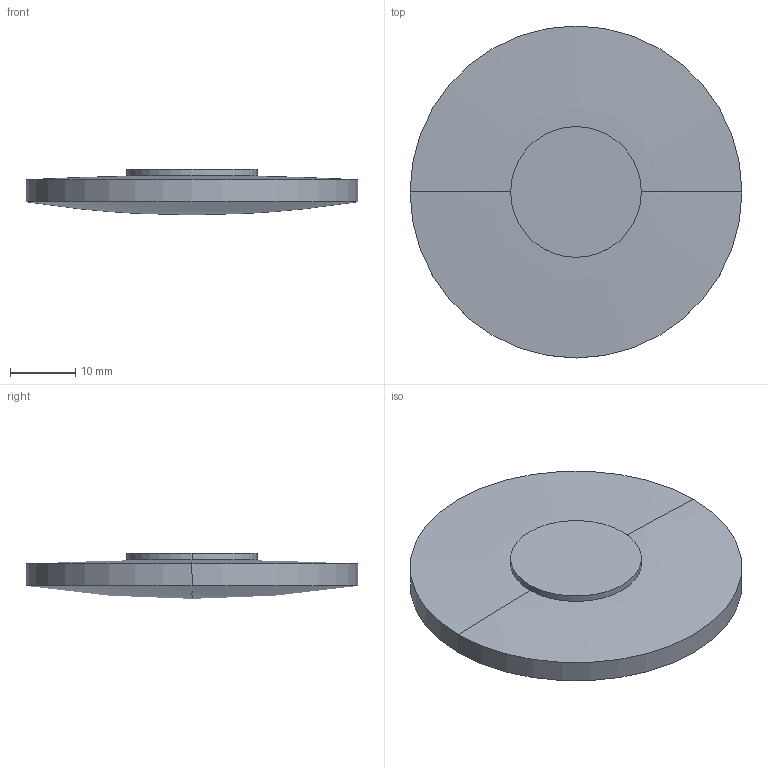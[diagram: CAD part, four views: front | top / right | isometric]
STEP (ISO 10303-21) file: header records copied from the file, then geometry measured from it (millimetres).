
FILE_DESCRIPTION(('STEP AP214'),'1');
FILE_NAME('LLR-51300.STEP','2020-03-09T17:42:04',(' '),(' '),'Spatial InterOp 3D',' ',' ');
FILE_SCHEMA(('AUTOMOTIVE_DESIGN { 1 0 10303 214 1 1 1 1 }'));
Length unit declared in the file: millimetre
Products named in the file (1): 1
Bounding box: 50.8 x 50.8 x 7 mm (x, y, z)
Volume: 9845.3 mm3; surface area: 5301.2 mm2
Topology: 2 solids, 2 shells, 10 faces, 20 edges, 10 vertices
Faces by surface type: sphere 4, cylinder 4, plane 2
Entity records: 255 total; most frequent: DIRECTION 52, CARTESIAN_POINT 38, ORIENTED_EDGE 32, AXIS2_PLACEMENT_3D 24, EDGE_CURVE 16, CIRCLE 12, ADVANCED_FACE 10, FACE_OUTER_BOUND 10
